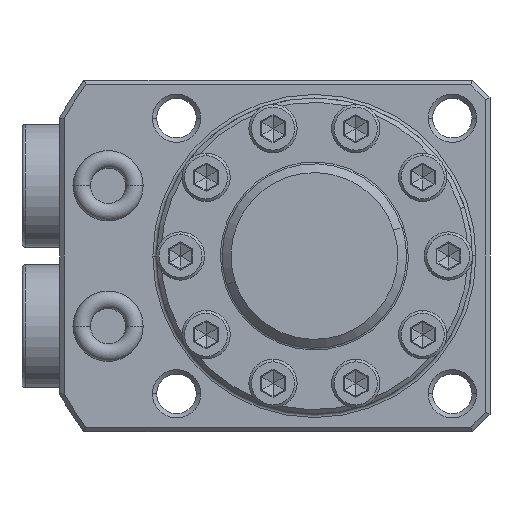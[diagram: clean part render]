
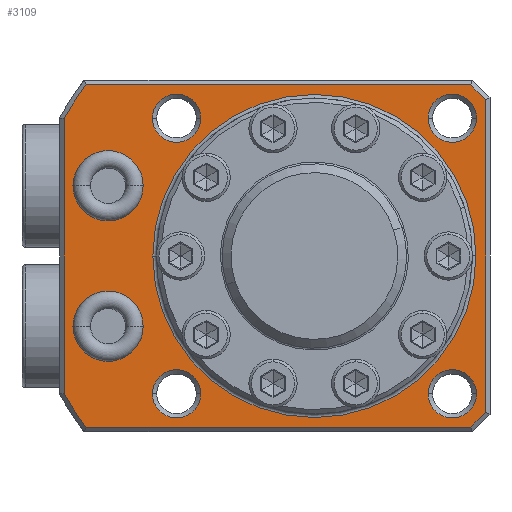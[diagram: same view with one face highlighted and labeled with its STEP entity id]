
A CAD part, front view. The second image highlights one B-rep face of the part: STEP entity #3109.
In plain terms, the highlighted planar face has unit normal (0, -1, 0).
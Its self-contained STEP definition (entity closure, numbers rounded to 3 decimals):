
#335=CARTESIAN_POINT('',(-23.5,47.6,-8.));
#336=DIRECTION('',(0.,1.,0.));
#337=DIRECTION('',(-1.,0.,0.));
#338=AXIS2_PLACEMENT_3D('',#335,#336,#337);
#340=CARTESIAN_POINT('',(-23.5,47.6,-8.));
#341=DIRECTION('',(0.,1.,0.));
#342=DIRECTION('',(1.,0.,0.));
#343=AXIS2_PLACEMENT_3D('',#340,#341,#342);
#345=CARTESIAN_POINT('',(-23.5,47.6,8.));
#346=DIRECTION('',(0.,1.,0.));
#347=DIRECTION('',(-1.,0.,0.));
#348=AXIS2_PLACEMENT_3D('',#345,#346,#347);
#350=CARTESIAN_POINT('',(-23.5,47.6,8.));
#351=DIRECTION('',(0.,1.,0.));
#352=DIRECTION('',(1.,0.,0.));
#353=AXIS2_PLACEMENT_3D('',#350,#351,#352);
#355=DIRECTION('',(0.,0.,-1.));
#356=VECTOR('',#355,31.241);
#357=CARTESIAN_POINT('',(-28.5,47.6,15.62));
#358=LINE('',#357,#356);
#359=CARTESIAN_POINT('',(0.,47.6,0.));
#360=DIRECTION('',(0.,-1.,0.));
#361=DIRECTION('',(-0.8,0.,0.6));
#362=AXIS2_PLACEMENT_3D('',#359,#360,#361);
#364=DIRECTION('',(-1.,0.,0.));
#365=VECTOR('',#364,43.793);
#366=CARTESIAN_POINT('',(17.793,47.6,19.5));
#367=LINE('',#366,#365);
#368=DIRECTION('',(-0.707,0.,0.707));
#369=VECTOR('',#368,2.414);
#370=CARTESIAN_POINT('',(19.5,47.6,17.793));
#371=LINE('',#370,#369);
#372=DIRECTION('',(0.,0.,1.));
#373=VECTOR('',#372,35.586);
#374=CARTESIAN_POINT('',(19.5,47.6,-17.793));
#375=LINE('',#374,#373);
#376=DIRECTION('',(0.707,0.,0.707));
#377=VECTOR('',#376,2.414);
#378=CARTESIAN_POINT('',(17.793,47.6,-19.5));
#379=LINE('',#378,#377);
#380=DIRECTION('',(1.,0.,0.));
#381=VECTOR('',#380,43.793);
#382=CARTESIAN_POINT('',(-26.,47.6,-19.5));
#383=LINE('',#382,#381);
#384=CARTESIAN_POINT('',(0.,47.6,0.));
#385=DIRECTION('',(0.,-1.,0.));
#386=DIRECTION('',(-0.877,0.,-0.481));
#387=AXIS2_PLACEMENT_3D('',#384,#385,#386);
#389=CARTESIAN_POINT('',(-15.7,47.6,15.7));
#390=DIRECTION('',(0.,1.,0.));
#391=DIRECTION('',(1.,0.,0.));
#392=AXIS2_PLACEMENT_3D('',#389,#390,#391);
#394=CARTESIAN_POINT('',(-15.7,47.6,15.7));
#395=DIRECTION('',(0.,1.,0.));
#396=DIRECTION('',(-1.,0.,0.));
#397=AXIS2_PLACEMENT_3D('',#394,#395,#396);
#399=CARTESIAN_POINT('',(-15.7,47.6,-15.7));
#400=DIRECTION('',(0.,1.,0.));
#401=DIRECTION('',(1.,0.,0.));
#402=AXIS2_PLACEMENT_3D('',#399,#400,#401);
#404=CARTESIAN_POINT('',(-15.7,47.6,-15.7));
#405=DIRECTION('',(0.,1.,0.));
#406=DIRECTION('',(-1.,0.,0.));
#407=AXIS2_PLACEMENT_3D('',#404,#405,#406);
#409=CARTESIAN_POINT('',(15.7,47.6,-15.7));
#410=DIRECTION('',(0.,1.,0.));
#411=DIRECTION('',(1.,0.,0.));
#412=AXIS2_PLACEMENT_3D('',#409,#410,#411);
#414=CARTESIAN_POINT('',(15.7,47.6,-15.7));
#415=DIRECTION('',(0.,1.,0.));
#416=DIRECTION('',(-1.,0.,0.));
#417=AXIS2_PLACEMENT_3D('',#414,#415,#416);
#419=CARTESIAN_POINT('',(15.7,47.6,15.7));
#420=DIRECTION('',(0.,1.,0.));
#421=DIRECTION('',(-1.,0.,0.));
#422=AXIS2_PLACEMENT_3D('',#419,#420,#421);
#424=CARTESIAN_POINT('',(15.7,47.6,15.7));
#425=DIRECTION('',(0.,1.,0.));
#426=DIRECTION('',(1.,0.,0.));
#427=AXIS2_PLACEMENT_3D('',#424,#425,#426);
#429=CARTESIAN_POINT('',(0.,47.6,0.));
#430=DIRECTION('',(0.,1.,0.));
#431=DIRECTION('',(1.,0.,0.));
#432=AXIS2_PLACEMENT_3D('',#429,#430,#431);
#434=CARTESIAN_POINT('',(0.,47.6,0.));
#435=DIRECTION('',(0.,1.,0.));
#436=DIRECTION('',(-1.,0.,0.));
#437=AXIS2_PLACEMENT_3D('',#434,#435,#436);
#2254=CARTESIAN_POINT('',(-27.5,47.6,-8.));
#2255=CARTESIAN_POINT('',(-19.5,47.6,-8.));
#2256=VERTEX_POINT('',#2254);
#2257=VERTEX_POINT('',#2255);
#2262=CARTESIAN_POINT('',(-27.5,47.6,8.));
#2263=CARTESIAN_POINT('',(-19.5,47.6,8.));
#2264=VERTEX_POINT('',#2262);
#2265=VERTEX_POINT('',#2263);
#2290=CARTESIAN_POINT('',(-28.5,47.6,15.62));
#2291=CARTESIAN_POINT('',(-28.5,47.6,-15.62));
#2292=VERTEX_POINT('',#2290);
#2293=VERTEX_POINT('',#2291);
#2306=CARTESIAN_POINT('',(17.793,47.6,19.5));
#2307=CARTESIAN_POINT('',(-26.,47.6,19.5));
#2308=VERTEX_POINT('',#2306);
#2309=VERTEX_POINT('',#2307);
#2318=CARTESIAN_POINT('',(19.5,47.6,-17.793));
#2319=CARTESIAN_POINT('',(19.5,47.6,17.793));
#2320=VERTEX_POINT('',#2318);
#2321=VERTEX_POINT('',#2319);
#2326=CARTESIAN_POINT('',(-26.,47.6,-19.5));
#2327=CARTESIAN_POINT('',(17.793,47.6,-19.5));
#2328=VERTEX_POINT('',#2326);
#2329=VERTEX_POINT('',#2327);
#2394=CARTESIAN_POINT('',(-12.95,47.6,15.7));
#2395=CARTESIAN_POINT('',(-18.45,47.6,15.7));
#2396=VERTEX_POINT('',#2394);
#2397=VERTEX_POINT('',#2395);
#2402=CARTESIAN_POINT('',(-12.95,47.6,-15.7));
#2403=CARTESIAN_POINT('',(-18.45,47.6,-15.7));
#2404=VERTEX_POINT('',#2402);
#2405=VERTEX_POINT('',#2403);
#2410=CARTESIAN_POINT('',(18.45,47.6,-15.7));
#2411=CARTESIAN_POINT('',(12.95,47.6,-15.7));
#2412=VERTEX_POINT('',#2410);
#2413=VERTEX_POINT('',#2411);
#2418=CARTESIAN_POINT('',(12.95,47.6,15.7));
#2419=CARTESIAN_POINT('',(18.45,47.6,15.7));
#2420=VERTEX_POINT('',#2418);
#2421=VERTEX_POINT('',#2419);
#2438=CARTESIAN_POINT('',(18.4,47.6,0.));
#2439=CARTESIAN_POINT('',(-18.4,47.6,0.));
#2440=VERTEX_POINT('',#2438);
#2441=VERTEX_POINT('',#2439);
#3045=CARTESIAN_POINT('',(0.,47.6,0.));
#3046=DIRECTION('',(0.,-1.,0.));
#3047=DIRECTION('',(-1.,0.,0.));
#3048=AXIS2_PLACEMENT_3D('',#3045,#3046,#3047);
#3049=PLANE('',#3048);
#3051=ORIENTED_EDGE('',*,*,#3050,.F.);
#3053=ORIENTED_EDGE('',*,*,#3052,.F.);
#3055=ORIENTED_EDGE('',*,*,#3054,.F.);
#3057=ORIENTED_EDGE('',*,*,#3056,.F.);
#3059=ORIENTED_EDGE('',*,*,#3058,.F.);
#3061=ORIENTED_EDGE('',*,*,#3060,.F.);
#3063=ORIENTED_EDGE('',*,*,#3062,.F.);
#3065=ORIENTED_EDGE('',*,*,#3064,.F.);
#3066=EDGE_LOOP('',(#3051,#3053,#3055,#3057,#3059,#3061,#3063,#3065));
#3067=FACE_OUTER_BOUND('',#3066,.F.);
#3069=ORIENTED_EDGE('',*,*,#3068,.F.);
#3071=ORIENTED_EDGE('',*,*,#3070,.F.);
#3072=EDGE_LOOP('',(#3069,#3071));
#3073=FACE_BOUND('',#3072,.F.);
#3075=ORIENTED_EDGE('',*,*,#3074,.F.);
#3077=ORIENTED_EDGE('',*,*,#3076,.F.);
#3078=EDGE_LOOP('',(#3075,#3077));
#3079=FACE_BOUND('',#3078,.F.);
#3081=ORIENTED_EDGE('',*,*,#3080,.F.);
#3083=ORIENTED_EDGE('',*,*,#3082,.F.);
#3084=EDGE_LOOP('',(#3081,#3083));
#3085=FACE_BOUND('',#3084,.F.);
#3087=ORIENTED_EDGE('',*,*,#3086,.F.);
#3089=ORIENTED_EDGE('',*,*,#3088,.F.);
#3090=EDGE_LOOP('',(#3087,#3089));
#3091=FACE_BOUND('',#3090,.F.);
#3092=ORIENTED_EDGE('',*,*,#3035,.F.);
#3094=ORIENTED_EDGE('',*,*,#3093,.F.);
#3095=EDGE_LOOP('',(#3092,#3094));
#3096=FACE_BOUND('',#3095,.F.);
#3098=ORIENTED_EDGE('',*,*,#3097,.F.);
#3100=ORIENTED_EDGE('',*,*,#3099,.F.);
#3101=EDGE_LOOP('',(#3098,#3100));
#3102=FACE_BOUND('',#3101,.F.);
#3104=ORIENTED_EDGE('',*,*,#3103,.F.);
#3106=ORIENTED_EDGE('',*,*,#3105,.F.);
#3107=EDGE_LOOP('',(#3104,#3106));
#3108=FACE_BOUND('',#3107,.F.);
#3109=ADVANCED_FACE('',(#3067,#3073,#3079,#3085,#3091,#3096,#3102,#3108),#3049,
.T.);
#339=CIRCLE('',#338,4.);
#344=CIRCLE('',#343,4.);
#349=CIRCLE('',#348,4.);
#354=CIRCLE('',#353,4.);
#363=CIRCLE('',#362,32.5);
#388=CIRCLE('',#387,32.5);
#393=CIRCLE('',#392,2.75);
#398=CIRCLE('',#397,2.75);
#403=CIRCLE('',#402,2.75);
#408=CIRCLE('',#407,2.75);
#413=CIRCLE('',#412,2.75);
#418=CIRCLE('',#417,2.75);
#423=CIRCLE('',#422,2.75);
#428=CIRCLE('',#427,2.75);
#433=CIRCLE('',#432,18.4);
#438=CIRCLE('',#437,18.4);
#3035=EDGE_CURVE('',#2412,#2413,#413,.T.);
#3050=EDGE_CURVE('',#2292,#2293,#358,.T.);
#3052=EDGE_CURVE('',#2309,#2292,#363,.T.);
#3054=EDGE_CURVE('',#2308,#2309,#367,.T.);
#3056=EDGE_CURVE('',#2321,#2308,#371,.T.);
#3058=EDGE_CURVE('',#2320,#2321,#375,.T.);
#3060=EDGE_CURVE('',#2329,#2320,#379,.T.);
#3062=EDGE_CURVE('',#2328,#2329,#383,.T.);
#3064=EDGE_CURVE('',#2293,#2328,#388,.T.);
#3068=EDGE_CURVE('',#2264,#2265,#349,.T.);
#3070=EDGE_CURVE('',#2265,#2264,#354,.T.);
#3074=EDGE_CURVE('',#2256,#2257,#339,.T.);
#3076=EDGE_CURVE('',#2257,#2256,#344,.T.);
#3080=EDGE_CURVE('',#2396,#2397,#393,.T.);
#3082=EDGE_CURVE('',#2397,#2396,#398,.T.);
#3086=EDGE_CURVE('',#2404,#2405,#403,.T.);
#3088=EDGE_CURVE('',#2405,#2404,#408,.T.);
#3093=EDGE_CURVE('',#2413,#2412,#418,.T.);
#3097=EDGE_CURVE('',#2420,#2421,#423,.T.);
#3099=EDGE_CURVE('',#2421,#2420,#428,.T.);
#3103=EDGE_CURVE('',#2440,#2441,#433,.T.);
#3105=EDGE_CURVE('',#2441,#2440,#438,.T.);
